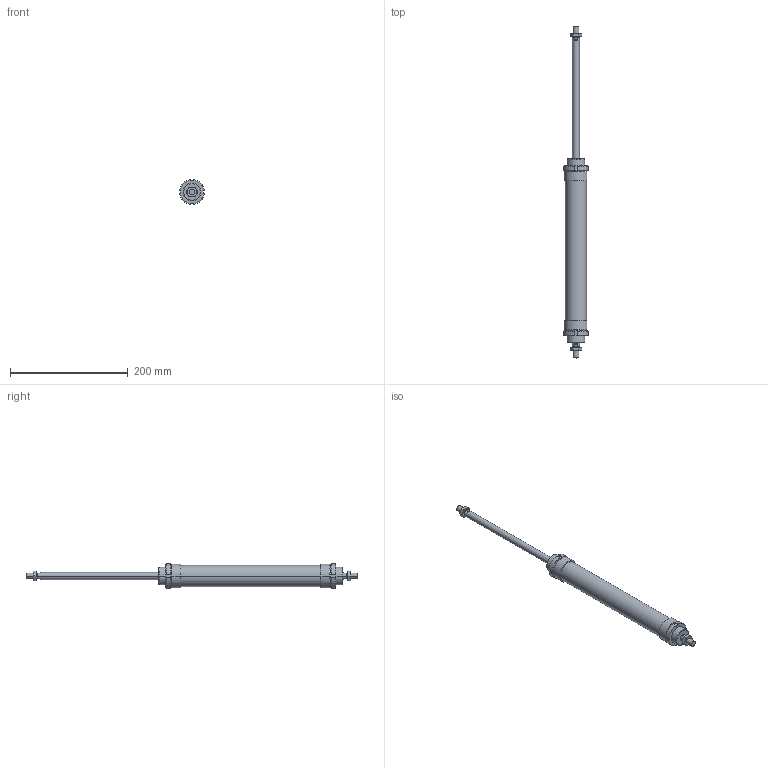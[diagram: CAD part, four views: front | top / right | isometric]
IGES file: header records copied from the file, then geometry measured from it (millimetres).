
Global section: file name: No Iges File Name specified; native system: AutoDesk Inventor R6.0; preprocessor: AutoDesk Inventor Iges Exporter R6.0; author: No Author specified; organization: No Organization specified; date: 20030403.072656; units: millimetre
Bounding box: 41.7 x 565 x 41.7 mm (x, y, z)
Volume: 350793.2 mm3; surface area: 79188.1 mm2
Topology: 6 solids, 6 shells, 182 faces, 424 edges, 264 vertices
Faces by surface type: plane 66, cone 52, bspline 30, cylinder 28, revolution 6
